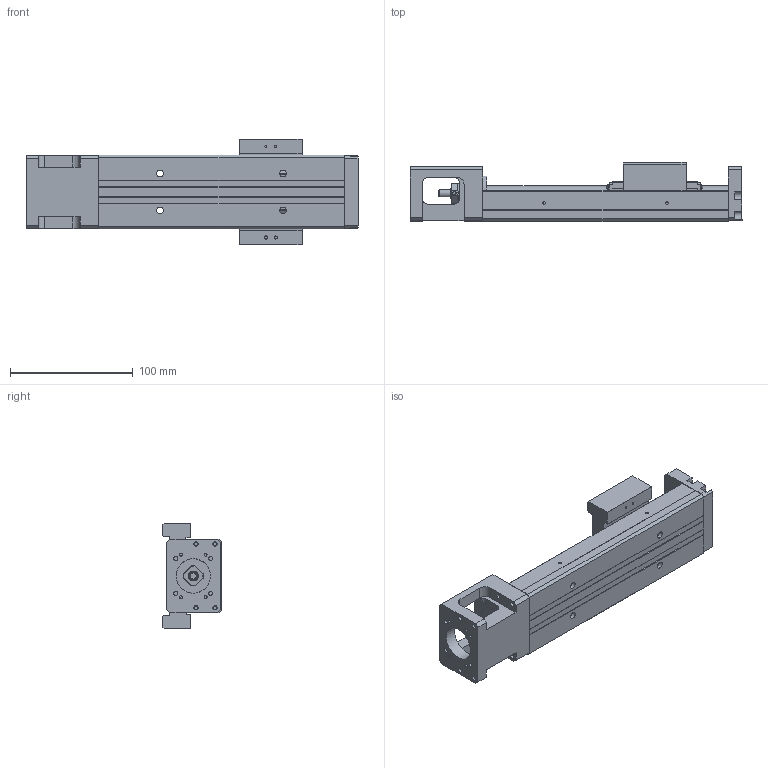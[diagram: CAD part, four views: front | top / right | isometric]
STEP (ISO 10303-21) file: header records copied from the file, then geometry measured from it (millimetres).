
FILE_DESCRIPTION(/* description */ (''),/* implementation_level */ '2;1');
FILE_NAME(/* name */ 'KP33N-200.stp',/* time_stamp */ '2019-02-25T14:46:32+08:00',/* author */ (''),/* organization */ (''),/* preprocessor_version */ 'ST-DEVELOPER v11',/* originating_system */ 'SIEMENS UGS NX 6.0',/* authorisation */ '');
FILE_SCHEMA (('CONFIG_CONTROL_DESIGN'));
Length unit declared in the file: millimetre
Products named in the file (1): darrFF5Egx4o
Bounding box: 270 x 47.95 x 86 mm (x, y, z)
Volume: 413352.4 mm3; surface area: 115127.6 mm2
Topology: 6 solids, 11 shells, 671 faces, 1700 edges, 1122 vertices
Faces by surface type: plane 401, cylinder 183, bspline 31, cone 24, extrusion 21, torus 9, revolution 2
Full cylindrical faces by diameter (mm): 1.6 x4, 1.65 x4, 2.15 x2, 2.42 x4, 2.45 x4, 2.5 x14, 3 x3, 3.2 x4, 3.3 x4, 3.4 x3, 3.5 x10, 3.969 x1, 4 x6, 4.001 x1, 4.135 x4, 4.2 x4, 5.5 x4, 6 x5, 7.6 x1, 8 x5, 9.5 x4, 10.72 x3, 11.8 x2, 12 x6, 12.8 x1, 13 x2, 14 x1, 17.38 x3, 21.5 x1, 22 x2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
Entity records: 31567 total; most frequent: CARTESIAN_POINT 16281, DIRECTION 3038, ORIENTED_EDGE 2958, EDGE_CURVE 1479, AXIS2_PLACEMENT_3D 1060, VERTEX_POINT 1049, EDGE_LOOP 944, VECTOR 916
